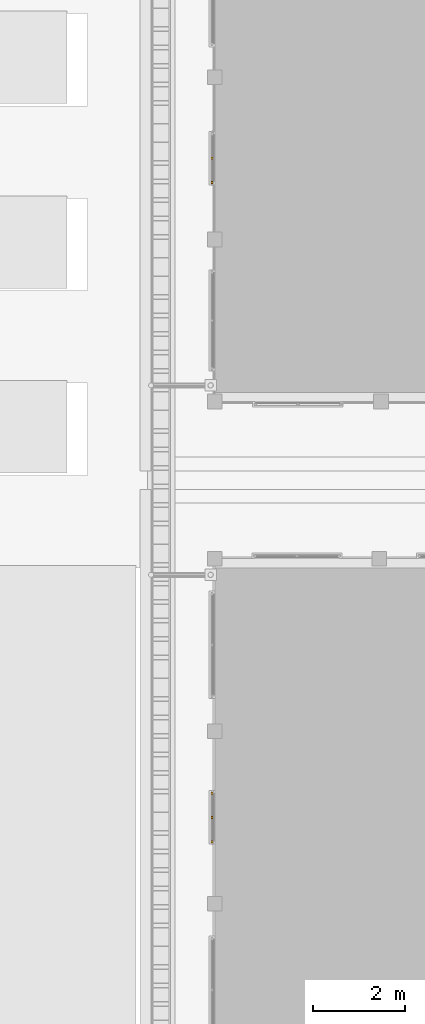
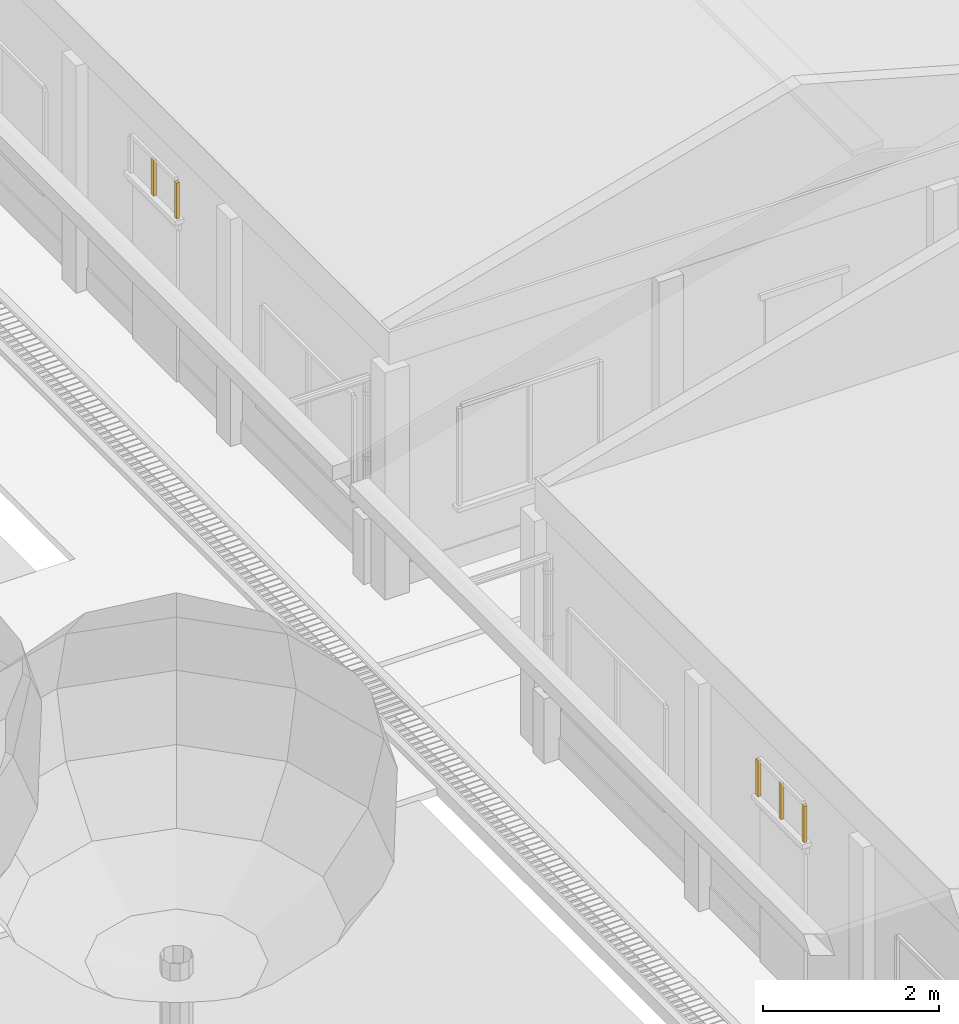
# One storey, part 71 of 166: 5 windows.
"""IFC2X3 building model written with IfcOpenShell, lengths in metres."""

from ifc_helpers import new_model, si_unit, origin, origin_with_axes, place, context, subcontext, project, spatial, faceted_brep, element, save


model = new_model("IFC2X3")

# Units and contexts
model_context = context("Model", 3, precision=1e-05, world=origin_with_axes())
body_context = subcontext(model_context, "Body", "Model", "MODEL_VIEW")
ifc_project = project(units=[si_unit("LENGTHUNIT", "METRE"), si_unit("AREAUNIT", "SQUARE_METRE"), si_unit("VOLUMEUNIT", "CUBIC_METRE"), si_unit("PLANEANGLEUNIT", "RADIAN")], contexts=[model_context])

# Site, building, storey
site_placement = place(None, origin_with_axes())
site = spatial("IfcSite", under=ifc_project, at=site_placement, Name="Predio Los Mangos - Morales, San Martín", CompositionType="ELEMENT")
building_placement = place(site_placement, origin())
building = spatial("IfcBuilding", under=site, at=building_placement, Name="Hogar de Refugio Temporal", CompositionType="ELEMENT")
storey_placement = place(building_placement, origin())
storey = spatial("IfcBuildingStorey", under=building, at=storey_placement, Name="NIVEL 1 (NPT +0.00)", CompositionType="ELEMENT", Elevation=0.0)

# Windows
window_1_placement = place(storey_placement, origin())
element("IfcWindow", 1, at=window_1_placement, inside=storey, Name="E-01_vt4_m", ObjectType="Ventana", context=body_context, shape_type="Brep", body=[
    faceted_brep([(13.72, 42.55, 2.45), (13.72, 42.6, 2.45), (13.76, 42.6, 2.45), (13.76, 42.55, 2.45), (13.72, 42.55, 2.95), (13.76, 42.55, 2.95), (13.76, 42.6, 2.95), (13.72, 42.6, 2.95)], [[[0, 1, 2, 3]], [[4, 5, 6, 7]], [[0, 3, 5, 4]], [[3, 2, 6, 5]], [[2, 1, 7, 6]], [[1, 0, 4, 7]]]),
])
window_2_placement = place(storey_placement, origin())
element("IfcWindow", 2, at=window_2_placement, inside=storey, Name="E-01_vt4_m", ObjectType="Ventana", context=body_context, shape_type="Brep", body=[
    faceted_brep([(13.72, 43.6, 2.45), (13.72, 43.65, 2.45), (13.76, 43.65, 2.45), (13.76, 43.6, 2.45), (13.72, 43.6, 2.95), (13.76, 43.6, 2.95), (13.76, 43.65, 2.95), (13.72, 43.65, 2.95)], [[[0, 1, 2, 3]], [[4, 5, 6, 7]], [[0, 3, 5, 4]], [[3, 2, 6, 5]], [[2, 1, 7, 6]], [[1, 0, 4, 7]]]),
])
window_3_placement = place(storey_placement, origin())
element("IfcWindow", 3, at=window_3_placement, inside=storey, Name="E-01_vt4_m", ObjectType="Ventana", context=body_context, shape_type="Brep", body=[
    faceted_brep([(13.72, 43.075, 2.45), (13.72, 43.125, 2.45), (13.76, 43.125, 2.45), (13.76, 43.075, 2.45), (13.72, 43.075, 2.95), (13.76, 43.075, 2.95), (13.76, 43.125, 2.95), (13.72, 43.125, 2.95)], [[[0, 1, 2, 3]], [[4, 5, 6, 7]], [[0, 3, 5, 4]], [[3, 2, 6, 5]], [[2, 1, 7, 6]], [[1, 0, 4, 7]]]),
])
window_4_placement = place(storey_placement, origin())
element("IfcWindow", 4, at=window_4_placement, inside=storey, Name="E-04_vt1_m", ObjectType="Ventana", context=body_context, shape_type="Brep", body=[
    faceted_brep([(13.72, 56.815, 2.45), (13.72, 56.865, 2.45), (13.76, 56.865, 2.45), (13.76, 56.815, 2.45), (13.72, 56.815, 2.95), (13.76, 56.815, 2.95), (13.76, 56.865, 2.95), (13.72, 56.865, 2.95)], [[[0, 1, 2, 3]], [[4, 5, 6, 7]], [[0, 3, 5, 4]], [[3, 2, 6, 5]], [[2, 1, 7, 6]], [[1, 0, 4, 7]]]),
])
window_5_placement = place(storey_placement, origin())
element("IfcWindow", 5, at=window_5_placement, inside=storey, Name="E-04_vt1_m", ObjectType="Ventana", context=body_context, shape_type="Brep", body=[
    faceted_brep([(13.72, 57.34, 2.45), (13.72, 57.39, 2.45), (13.76, 57.39, 2.45), (13.76, 57.34, 2.45), (13.72, 57.34, 2.95), (13.76, 57.34, 2.95), (13.76, 57.39, 2.95), (13.72, 57.39, 2.95)], [[[0, 1, 2, 3]], [[4, 5, 6, 7]], [[0, 3, 5, 4]], [[3, 2, 6, 5]], [[2, 1, 7, 6]], [[1, 0, 4, 7]]]),
])

save(model, "model.ifc")
